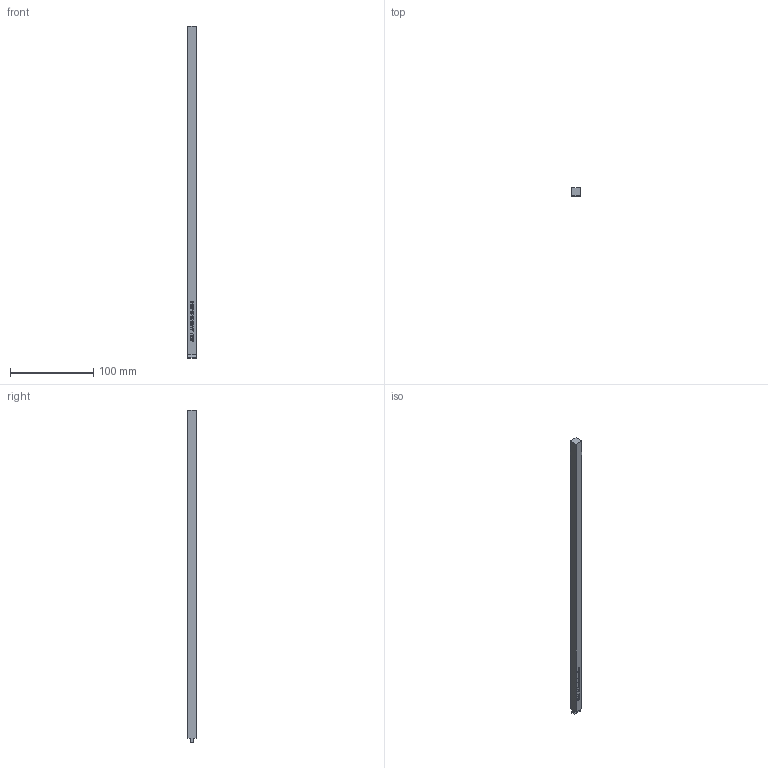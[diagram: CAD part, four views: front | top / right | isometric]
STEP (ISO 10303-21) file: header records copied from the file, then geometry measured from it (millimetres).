
FILE_DESCRIPTION (( 'STEP AP203' ), '1' );
FILE_NAME ('ALBD-10-10-400-5.STEP', '2021-01-11T20:28:24', ( '' ), ( '' ), 'SwSTEP 2.0', 'SolidWorks 2020', '' );
FILE_SCHEMA (( 'CONFIG_CONTROL_DESIGN' ));
Length unit declared in the file: millimetre
Products named in the file (1): ALBD-10-10-400-5
Bounding box: 10 x 10 x 400 mm (x, y, z)
Volume: 39691.6 mm3; surface area: 16185.7 mm2
Topology: 1 solids, 1 shells, 180 faces, 447 edges, 298 vertices
Faces by surface type: plane 139, bspline 41
Entity records: 6618 total; most frequent: CARTESIAN_POINT 2523, ORIENTED_EDGE 894, DIRECTION 645, EDGE_CURVE 447, VECTOR 365, LINE 365, VERTEX_POINT 298, EDGE_LOOP 209
